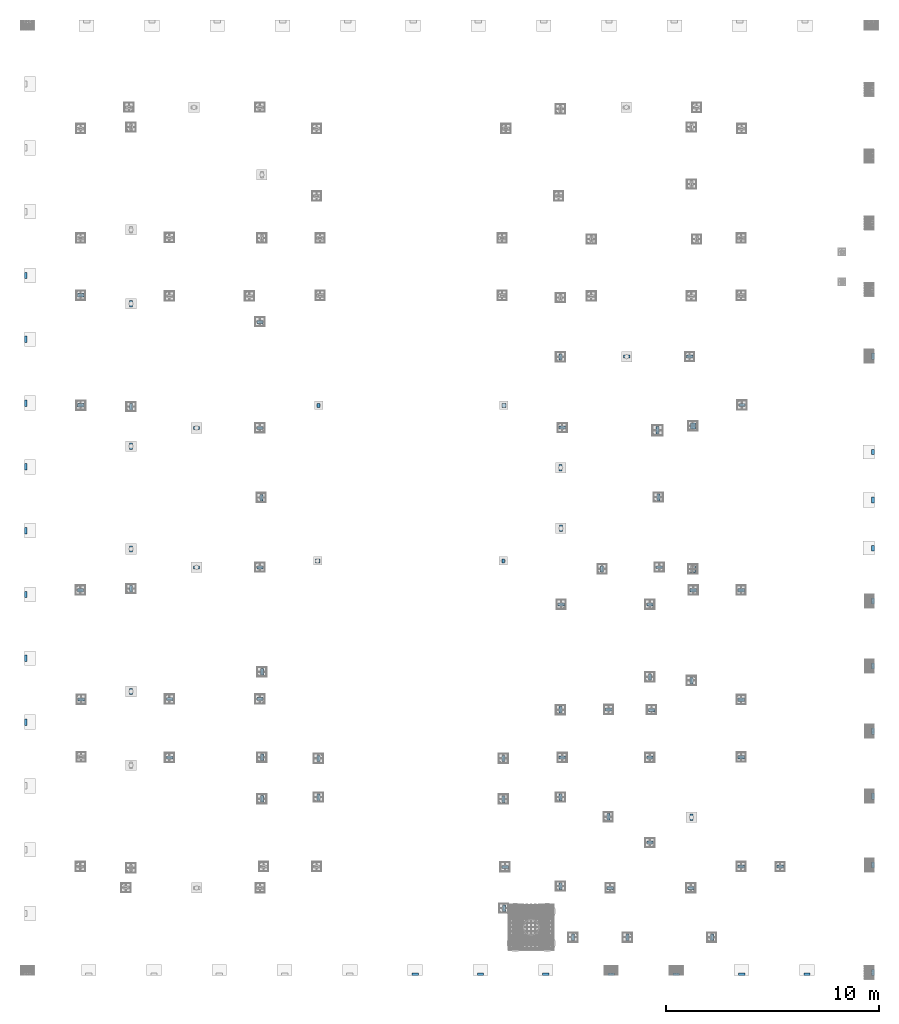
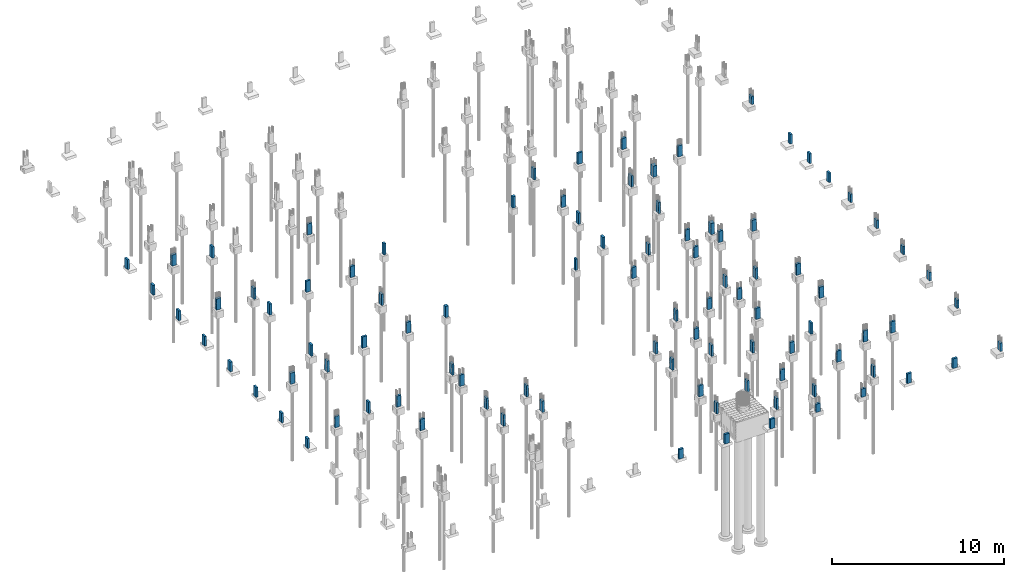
# One storey, part 3 of 119: 95 columns.
"""IFC4 building model written with IfcOpenShell, lengths in centimetres."""

from ifc_helpers import new_model, si_unit, derived_unit, frame, origin_with_axes, origin_2d_with_axis, place, context, project, spatial, rectangle, extrude, material, element, save


model = new_model("IFC4")

# Units and contexts
model_context = context("Model", 3, precision=1e-05, world=origin_with_axes(), identifier="Body")
ifc_project = project(units=[si_unit("LENGTHUNIT", "METRE", prefix="CENTI"), si_unit("VOLUMEUNIT", "CUBIC_METRE"), si_unit("AREAUNIT", "SQUARE_METRE"), si_unit("POWERUNIT", "WATT"), si_unit("LUMINOUSFLUXUNIT", "LUMEN"), si_unit("ELECTRICCURRENTUNIT", "AMPERE"), si_unit("PRESSUREUNIT", "PASCAL", prefix="KILO"), si_unit("MASSUNIT", "GRAM", prefix="KILO"), si_unit("PLANEANGLEUNIT", "RADIAN"), derived_unit("VOLUMETRICFLOWRATEUNIT", [(si_unit("LENGTHUNIT", "METRE"), 3), (si_unit("TIMEUNIT", "SECOND"), -1)])], contexts=[model_context])

# Site, building, storey
site_placement = place(None, frame((-4000.0, 0.0, 0.0), z_axis=(0.0, 0.0, 1.0), x_axis=(1.0, 0.0, 0.0)))
site = spatial("IfcSite", under=ifc_project, at=site_placement, Name="PADRÃO")
building_placement = place(site_placement, frame((0.0, 0.0, -14.0)))
building = spatial("IfcBuilding", under=site, at=building_placement, Name="CRECHE PRÉ-ESCOLA TIPO 2")
storey_placement = place(building_placement, origin_with_axes())
storey = spatial("IfcBuildingStorey", under=building, at=storey_placement, Name="FUNDAÇÃO", CompositionType="ELEMENT", Elevation=-14.0)

# Columns
ifc_material = material(Name="Concreto")
column_1_placement = place(storey_placement, frame((3993.0, 1764.11, 0.0), z_axis=(0.0, 0.0, 1.0), x_axis=(1.0, 0.0, 0.0)))
element("IfcColumn", 1, at=column_1_placement, inside=storey, material=ifc_material, Name="P100", context=model_context, shape_type="SolidModel", body=[
    extrude(rectangle(XDim=14.0, YDim=30.0, at=origin_2d_with_axis()), frame((0.0, 0.0, -59.0), z_axis=(0.0, 0.0, 1.0), x_axis=(-1.0, 0.0, 0.0)), (0.0, 0.0, 1.0), 59.0),
])
column_2_placement = place(storey_placement, frame((8.5, 1494.5, 0.0), z_axis=(0.0, 0.0, 1.0), x_axis=(1.0, 0.0, 0.0)))
element("IfcColumn", 2, at=column_2_placement, inside=storey, material=ifc_material, Name="P101", context=model_context, shape_type="SolidModel", body=[
    extrude(rectangle(XDim=14.0, YDim=30.0, at=origin_2d_with_axis()), frame((0.0, 0.0, -69.0), z_axis=(0.0, 0.0, 1.0), x_axis=(1.0, 0.0, 0.0)), (0.0, 0.0, 1.0), 69.0),
])
column_3_placement = place(storey_placement, frame((1118.72, 1430.5, 0.0), z_axis=(0.0, 0.0, 1.0), x_axis=(1.0, 0.0, 0.0)))
element("IfcColumn", 3, at=column_3_placement, inside=storey, material=ifc_material, Name="P102", context=model_context, shape_type="SolidModel", body=[
    extrude(rectangle(XDim=14.0, YDim=30.0, at=origin_2d_with_axis()), frame((0.0, 0.0, -80.0), z_axis=(0.0, 0.0, 1.0), x_axis=(1.0, 0.0, 0.0)), (0.0, 0.0, 1.0), 80.0),
])
column_4_placement = place(storey_placement, frame((3993.0, 1458.11, 0.0), z_axis=(0.0, 0.0, 1.0), x_axis=(1.0, 0.0, 0.0)))
element("IfcColumn", 4, at=column_4_placement, inside=storey, material=ifc_material, Name="P103", context=model_context, shape_type="SolidModel", body=[
    extrude(rectangle(XDim=14.0, YDim=30.0, at=origin_2d_with_axis()), frame((0.0, 0.0, -59.0), z_axis=(0.0, 0.0, 1.0), x_axis=(-1.0, 0.0, 0.0)), (0.0, 0.0, 1.0), 59.0),
])
column_5_placement = place(storey_placement, frame((2943.24, 1406.51, 0.0), z_axis=(0.0, 0.0, 1.0), x_axis=(1.0, 0.0, 0.0)))
element("IfcColumn", 5, at=column_5_placement, inside=storey, material=ifc_material, Name="P104", context=model_context, shape_type="SolidModel", body=[
    extrude(rectangle(XDim=14.0, YDim=30.0, at=origin_2d_with_axis()), frame((0.0, 0.0, -80.0), z_axis=(0.0, 0.0, 1.0), x_axis=(1.0, 0.0, 0.0)), (0.0, 0.0, 1.0), 80.0),
])
column_6_placement = place(storey_placement, frame((3138.5, 1389.52, 0.0), z_axis=(0.0, 0.0, 1.0), x_axis=(1.0, 0.0, 0.0)))
element("IfcColumn", 6, at=column_6_placement, inside=storey, material=ifc_material, Name="P105", context=model_context, shape_type="SolidModel", body=[
    extrude(rectangle(XDim=14.0, YDim=30.0, at=origin_2d_with_axis()), frame((0.0, 0.0, -80.0), z_axis=(0.0, 0.0, 1.0), x_axis=(-1.0, 0.0, 0.0)), (0.0, 0.0, 1.0), 80.0),
])
column_7_placement = place(storey_placement, frame((269.5, 1301.5, 0.0), z_axis=(0.0, 0.0, 1.0), x_axis=(1.0, 0.0, 0.0)))
element("IfcColumn", 7, at=column_7_placement, inside=storey, material=ifc_material, Name="P106", context=model_context, shape_type="SolidModel", body=[
    extrude(rectangle(XDim=14.0, YDim=30.0, at=origin_2d_with_axis()), frame((0.0, 0.0, -80.0), z_axis=(0.0, 0.0, 1.0), x_axis=(0.0, -1.0, 0.0)), (0.0, 0.0, 1.0), 80.0),
])
column_8_placement = place(storey_placement, frame((503.69, 1338.51, 0.0), z_axis=(0.0, 0.0, 1.0), x_axis=(1.0, 0.0, 0.0)))
element("IfcColumn", 8, at=column_8_placement, inside=storey, material=ifc_material, Name="P107", context=model_context, shape_type="SolidModel", body=[
    extrude(rectangle(XDim=14.0, YDim=30.0, at=origin_2d_with_axis()), frame((0.0, 0.0, -80.0), z_axis=(0.0, 0.0, 1.0), x_axis=(1.0, 0.0, 0.0)), (0.0, 0.0, 1.0), 80.0),
])
column_9_placement = place(storey_placement, frame((685.0, 1302.5, 0.0), z_axis=(0.0, 0.0, 1.0), x_axis=(1.0, 0.0, 0.0)))
element("IfcColumn", 9, at=column_9_placement, inside=storey, material=ifc_material, Name="P108", context=model_context, shape_type="SolidModel", body=[
    extrude(rectangle(XDim=14.0, YDim=30.0, at=origin_2d_with_axis()), frame((0.0, 0.0, -80.0), z_axis=(0.0, 0.0, 1.0), x_axis=(0.0, -1.0, 0.0)), (0.0, 0.0, 1.0), 80.0),
])
column_10_placement = place(storey_placement, frame((1109.72, 1302.5, 0.0), z_axis=(0.0, 0.0, 1.0), x_axis=(1.0, 0.0, 0.0)))
element("IfcColumn", 10, at=column_10_placement, inside=storey, material=ifc_material, Name="P109", context=model_context, shape_type="SolidModel", body=[
    extrude(rectangle(XDim=14.0, YDim=30.0, at=origin_2d_with_axis()), frame((0.0, 0.0, -80.0), z_axis=(0.0, 0.0, 1.0), x_axis=(0.0, 1.0, 0.0)), (0.0, 0.0, 1.0), 80.0),
])
column_11_placement = place(storey_placement, frame((2523.5, 1252.08, 0.0), z_axis=(0.0, 0.0, 1.0), x_axis=(1.0, 0.0, 0.0)))
element("IfcColumn", 11, at=column_11_placement, inside=storey, material=ifc_material, Name="P110", context=model_context, shape_type="SolidModel", body=[
    extrude(rectangle(XDim=14.0, YDim=30.0, at=origin_2d_with_axis()), frame((0.0, 0.0, -80.0), z_axis=(0.0, 0.0, 1.0), x_axis=(1.0, 0.0, 0.0)), (0.0, 0.0, 1.0), 80.0),
])
for number, where, z_axis, x_axis, name in (
    (12, (2749.74, 1253.51, 0.0), (0.0, 0.0, 1.0), (1.0, 0.0, 0.0), "P111"),
    (13, (2951.24, 1252.52, 0.0), (0.0, 0.0, 1.0), (1.0, 0.0, 0.0), "P112"),
):
    element("IfcColumn", number, at=place(storey_placement, frame(where, z_axis=z_axis, x_axis=x_axis)), inside=storey, material=ifc_material, Name=name, context=model_context, shape_type="SolidModel", body=[
        extrude(rectangle(XDim=14.0, YDim=30.0, at=origin_2d_with_axis()), frame((0.0, 0.0, -80.0), z_axis=(0.0, 0.0, 1.0), x_axis=(0.0, 1.0, 0.0)), (0.0, 0.0, 1.0), 80.0),
    ])
column_12_placement = place(storey_placement, frame((3372.5, 1300.09, 0.0), z_axis=(0.0, 0.0, 1.0), x_axis=(1.0, 0.0, 0.0)))
element("IfcColumn", 14, at=column_12_placement, inside=storey, material=ifc_material, Name="P113", context=model_context, shape_type="SolidModel", body=[
    extrude(rectangle(XDim=17.0, YDim=30.0, at=origin_2d_with_axis()), frame((0.0, 0.0, -80.0), z_axis=(0.0, 0.0, 1.0), x_axis=(0.0, -1.0, 0.0)), (0.0, 0.0, 1.0), 80.0),
])
column_13_placement = place(storey_placement, frame((8.5, 1194.5, 0.0), z_axis=(0.0, 0.0, 1.0), x_axis=(1.0, 0.0, 0.0)))
element("IfcColumn", 15, at=column_13_placement, inside=storey, material=ifc_material, Name="P114", context=model_context, shape_type="SolidModel", body=[
    extrude(rectangle(XDim=14.0, YDim=30.0, at=origin_2d_with_axis()), frame((0.0, 0.0, -69.0), z_axis=(0.0, 0.0, 1.0), x_axis=(1.0, 0.0, 0.0)), (0.0, 0.0, 1.0), 69.0),
])
column_14_placement = place(storey_placement, frame((3993.0, 1152.11, 0.0), z_axis=(0.0, 0.0, 1.0), x_axis=(1.0, 0.0, 0.0)))
element("IfcColumn", 16, at=column_14_placement, inside=storey, material=ifc_material, Name="P115", context=model_context, shape_type="SolidModel", body=[
    extrude(rectangle(XDim=14.0, YDim=30.0, at=origin_2d_with_axis()), frame((0.0, 0.0, -59.0), z_axis=(0.0, 0.0, 1.0), x_axis=(-1.0, 0.0, 0.0)), (0.0, 0.0, 1.0), 59.0),
])
column_15_placement = place(storey_placement, frame((685.0, 1027.51, 0.0), z_axis=(0.0, 0.0, 1.0), x_axis=(1.0, 0.0, 0.0)))
element("IfcColumn", 17, at=column_15_placement, inside=storey, material=ifc_material, Name="P118", context=model_context, shape_type="SolidModel", body=[
    extrude(rectangle(XDim=14.0, YDim=30.0, at=origin_2d_with_axis()), frame((0.0, 0.0, -80.0), z_axis=(0.0, 0.0, 1.0), x_axis=(0.0, -1.0, 0.0)), (0.0, 0.0, 1.0), 80.0),
])
column_16_placement = place(storey_placement, frame((1118.72, 1028.5, 0.0), z_axis=(0.0, 0.0, 1.0), x_axis=(1.0, 0.0, 0.0)))
element("IfcColumn", 18, at=column_16_placement, inside=storey, material=ifc_material, Name="P119", context=model_context, shape_type="SolidModel", body=[
    extrude(rectangle(XDim=14.0, YDim=30.0, at=origin_2d_with_axis()), frame((0.0, 0.0, -80.0), z_axis=(0.0, 0.0, 1.0), x_axis=(1.0, 0.0, 0.0)), (0.0, 0.0, 1.0), 80.0),
])
column_17_placement = place(storey_placement, frame((1384.84, 1023.51, 0.0), z_axis=(0.0, 0.0, 1.0), x_axis=(1.0, 0.0, 0.0)))
element("IfcColumn", 19, at=column_17_placement, inside=storey, material=ifc_material, Name="P120", context=model_context, shape_type="SolidModel", body=[
    extrude(rectangle(XDim=14.0, YDim=30.0, at=origin_2d_with_axis()), frame((0.0, 0.0, -80.0), z_axis=(0.0, 0.0, 1.0), x_axis=(-1.0, 0.0, 0.0)), (0.0, 0.0, 1.0), 80.0),
])
column_18_placement = place(storey_placement, frame((2254.49, 1023.51, 0.0), z_axis=(0.0, 0.0, 1.0), x_axis=(1.0, 0.0, 0.0)))
element("IfcColumn", 20, at=column_18_placement, inside=storey, material=ifc_material, Name="P121", context=model_context, shape_type="SolidModel", body=[
    extrude(rectangle(XDim=14.0, YDim=30.0, at=origin_2d_with_axis()), frame((0.0, 0.0, -80.0), z_axis=(0.0, 0.0, 1.0), x_axis=(1.0, 0.0, 0.0)), (0.0, 0.0, 1.0), 80.0),
])
for number, where, z_axis, x_axis, name in (
    (21, (2531.5, 1027.52, 0.0), (0.0, 0.0, 1.0), (1.0, 0.0, 0.0), "P122"),
    (22, (2943.24, 1027.52, 0.0), (0.0, 0.0, 1.0), (1.0, 0.0, 0.0), "P123"),
):
    element("IfcColumn", number, at=place(storey_placement, frame(where, z_axis=z_axis, x_axis=x_axis)), inside=storey, material=ifc_material, Name=name, context=model_context, shape_type="SolidModel", body=[
        extrude(rectangle(XDim=14.0, YDim=30.0, at=origin_2d_with_axis()), frame((0.0, 0.0, -80.0), z_axis=(0.0, 0.0, 1.0), x_axis=(0.0, 1.0, 0.0)), (0.0, 0.0, 1.0), 80.0),
    ])
column_19_placement = place(storey_placement, frame((3372.5, 1030.08, 0.0), z_axis=(0.0, 0.0, 1.0), x_axis=(1.0, 0.0, 0.0)))
element("IfcColumn", 23, at=column_19_placement, inside=storey, material=ifc_material, Name="P124", context=model_context, shape_type="SolidModel", body=[
    extrude(rectangle(XDim=17.0, YDim=30.0, at=origin_2d_with_axis()), frame((0.0, 0.0, -80.0), z_axis=(0.0, 0.0, 1.0), x_axis=(0.0, -1.0, 0.0)), (0.0, 0.0, 1.0), 80.0),
])
for number, where, z_axis, x_axis, name in (
    (24, (1118.72, 833.5, 0.0), (0.0, 0.0, 1.0), (1.0, 0.0, 0.0), "P126"),
    (25, (1384.84, 841.1, 0.0), (0.0, 0.0, 1.0), (1.0, 0.0, 0.0), "P127"),
    (26, (2254.49, 832.52, 0.0), (0.0, 0.0, 1.0), (1.0, 0.0, 0.0), "P128"),
    (27, (2523.5, 841.52, 0.0), (0.0, 0.0, 1.0), (1.0, 0.0, 0.0), "P129"),
):
    element("IfcColumn", number, at=place(storey_placement, frame(where, z_axis=z_axis, x_axis=x_axis)), inside=storey, material=ifc_material, Name=name, context=model_context, shape_type="SolidModel", body=[
        extrude(rectangle(XDim=14.0, YDim=30.0, at=origin_2d_with_axis()), frame((0.0, 0.0, -80.0), z_axis=(0.0, 0.0, 1.0), x_axis=(1.0, 0.0, 0.0)), (0.0, 0.0, 1.0), 80.0),
    ])
column_20_placement = place(storey_placement, frame((3993.0, 846.11, 0.0), z_axis=(0.0, 0.0, 1.0), x_axis=(1.0, 0.0, 0.0)))
element("IfcColumn", 28, at=column_20_placement, inside=storey, material=ifc_material, Name="P130", context=model_context, shape_type="SolidModel", body=[
    extrude(rectangle(XDim=14.0, YDim=30.0, at=origin_2d_with_axis()), frame((0.0, 0.0, -59.0), z_axis=(0.0, 0.0, 1.0), x_axis=(-1.0, 0.0, 0.0)), (0.0, 0.0, 1.0), 59.0),
])
for number, where, z_axis, x_axis, name in (
    (29, (2747.52, 749.08, 0.0), (0.0, 0.0, 1.0), (1.0, 0.0, 0.0), "P131"),
    (30, (3138.5, 746.58, 0.0), (0.0, 0.0, 1.0), (1.0, 0.0, 0.0), "P132"),
):
    element("IfcColumn", number, at=place(storey_placement, frame(where, z_axis=z_axis, x_axis=x_axis)), inside=storey, material=ifc_material, Name=name, context=model_context, shape_type="SolidModel", body=[
        extrude(rectangle(XDim=14.0, YDim=30.0, at=origin_2d_with_axis()), frame((0.0, 0.0, -80.0), z_axis=(0.0, 0.0, 1.0), x_axis=(1.0, 0.0, 0.0)), (0.0, 0.0, 1.0), 80.0),
    ])
for number, where, z_axis, x_axis, name in (
    (31, (2943.45, 627.58, 0.0), (0.0, 0.0, 1.0), (1.0, 0.0, 0.0), "P134"),
    (32, (2262.48, 513.52, 0.0), (0.0, 0.0, 1.0), (1.0, 0.0, 0.0), "P139"),
    (33, (3372.5, 515.01, 0.0), (0.0, 0.0, 1.0), (1.0, 0.0, 0.0), "P140"),
):
    element("IfcColumn", number, at=place(storey_placement, frame(where, z_axis=z_axis, x_axis=x_axis)), inside=storey, material=ifc_material, Name=name, context=model_context, shape_type="SolidModel", body=[
        extrude(rectangle(XDim=14.0, YDim=30.0, at=origin_2d_with_axis()), frame((0.0, 0.0, -80.0), z_axis=(0.0, 0.0, 1.0), x_axis=(0.0, 1.0, 0.0)), (0.0, 0.0, 1.0), 80.0),
    ])
column_21_placement = place(storey_placement, frame((3556.0, 514.52, 0.0), z_axis=(0.0, 0.0, 1.0), x_axis=(1.0, 0.0, 0.0)))
element("IfcColumn", 34, at=column_21_placement, inside=storey, material=ifc_material, Name="P141", context=model_context, shape_type="SolidModel", body=[
    extrude(rectangle(XDim=14.0, YDim=30.0, at=origin_2d_with_axis()), frame((0.0, 0.0, -80.0), z_axis=(0.0, 0.0, 1.0), x_axis=(0.0, -1.0, 0.0)), (0.0, 0.0, 1.0), 80.0),
])
column_22_placement = place(storey_placement, frame((3993.0, 522.51, 0.0), z_axis=(0.0, 0.0, 1.0), x_axis=(1.0, 0.0, 0.0)))
element("IfcColumn", 35, at=column_22_placement, inside=storey, material=ifc_material, Name="P142", context=model_context, shape_type="SolidModel", body=[
    extrude(rectangle(XDim=14.0, YDim=30.0, at=origin_2d_with_axis()), frame((0.0, 0.0, -59.0), z_axis=(0.0, 0.0, 1.0), x_axis=(-1.0, 0.0, 0.0)), (0.0, 0.0, 1.0), 59.0),
])
column_23_placement = place(storey_placement, frame((2523.5, 423.02, 0.0), z_axis=(0.0, 0.0, 1.0), x_axis=(1.0, 0.0, 0.0)))
element("IfcColumn", 36, at=column_23_placement, inside=storey, material=ifc_material, Name="P146", context=model_context, shape_type="SolidModel", body=[
    extrude(rectangle(XDim=14.0, YDim=30.0, at=origin_2d_with_axis()), frame((0.0, 0.0, -80.0), z_axis=(0.0, 0.0, 1.0), x_axis=(1.0, 0.0, 0.0)), (0.0, 0.0, 1.0), 80.0),
])
for number, where, z_axis, x_axis, name in (
    (37, (2756.46, 415.01, 0.0), (0.0, 0.0, 1.0), (1.0, 0.0, 0.0), "P147"),
    (38, (3136.0, 415.01, 0.0), (0.0, 0.0, 1.0), (1.0, 0.0, 0.0), "P148"),
):
    element("IfcColumn", number, at=place(storey_placement, frame(where, z_axis=z_axis, x_axis=x_axis)), inside=storey, material=ifc_material, Name=name, context=model_context, shape_type="SolidModel", body=[
        extrude(rectangle(XDim=14.0, YDim=30.0, at=origin_2d_with_axis()), frame((0.0, 0.0, -80.0), z_axis=(0.0, 0.0, 1.0), x_axis=(0.0, 1.0, 0.0)), (0.0, 0.0, 1.0), 80.0),
    ])
column_24_placement = place(storey_placement, frame((2255.98, 319.02, 0.0), z_axis=(0.0, 0.0, 1.0), x_axis=(1.0, 0.0, 0.0)))
element("IfcColumn", 39, at=column_24_placement, inside=storey, material=ifc_material, Name="P150", context=model_context, shape_type="SolidModel", body=[
    extrude(rectangle(XDim=14.0, YDim=30.0, at=origin_2d_with_axis()), frame((0.0, 0.0, -80.0), z_axis=(0.0, 0.0, 1.0), x_axis=(1.0, 0.0, 0.0)), (0.0, 0.0, 1.0), 80.0),
])
for number, where, z_axis, x_axis, name in (
    (40, (2581.46, 182.5, 0.0), (0.0, 0.0, 1.0), (1.0, 0.0, 0.0), "P152"),
    (41, (2837.49, 182.5, 0.0), (0.0, 0.0, 1.0), (1.0, 0.0, 0.0), "P153"),
):
    element("IfcColumn", number, at=place(storey_placement, frame(where, z_axis=z_axis, x_axis=x_axis)), inside=storey, material=ifc_material, Name=name, context=model_context, shape_type="SolidModel", body=[
        extrude(rectangle(XDim=14.0, YDim=30.0, at=origin_2d_with_axis()), frame((0.0, 0.0, -80.0), z_axis=(0.0, 0.0, 1.0), x_axis=(-1.0, 0.0, 0.0)), (0.0, 0.0, 1.0), 80.0),
    ])
column_25_placement = place(storey_placement, frame((3233.99, 182.5, 0.0), z_axis=(0.0, 0.0, 1.0), x_axis=(1.0, 0.0, 0.0)))
element("IfcColumn", 42, at=column_25_placement, inside=storey, material=ifc_material, Name="P154", context=model_context, shape_type="SolidModel", body=[
    extrude(rectangle(XDim=14.0, YDim=30.0, at=origin_2d_with_axis()), frame((0.0, 0.0, -80.0), z_axis=(0.0, 0.0, 1.0), x_axis=(1.0, 0.0, 0.0)), (0.0, 0.0, 1.0), 80.0),
])
for number, where, z_axis, x_axis, name in (
    (43, (1839.5, 9.0, 0.0), (0.0, 0.0, 1.0), (1.0, 0.0, 0.0), "P161"),
    (44, (2146.5, 9.0, 0.0), (0.0, 0.0, 1.0), (1.0, 0.0, 0.0), "P162"),
    (45, (2453.5, 9.0, 0.0), (0.0, 0.0, 1.0), (1.0, 0.0, 0.0), "P163"),
):
    element("IfcColumn", number, at=place(storey_placement, frame(where, z_axis=z_axis, x_axis=x_axis)), inside=storey, material=ifc_material, Name=name, context=model_context, shape_type="SolidModel", body=[
        extrude(rectangle(XDim=14.0, YDim=30.0, at=origin_2d_with_axis()), frame((0.0, 0.0, -69.0), z_axis=(0.0, 0.0, 1.0), x_axis=(0.0, 1.0, 0.0)), (0.0, 0.0, 1.0), 69.0),
    ])
for number, where, z_axis, x_axis, name in (
    (46, (2760.5, 9.0, 0.0), (0.0, 0.0, 1.0), (1.0, 0.0, 0.0), "P164"),
    (47, (3067.5, 9.0, 0.0), (0.0, 0.0, 1.0), (1.0, 0.0, 0.0), "P165"),
):
    element("IfcColumn", number, at=place(storey_placement, frame(where, z_axis=z_axis, x_axis=x_axis)), inside=storey, material=ifc_material, Name=name, context=model_context, shape_type="SolidModel", body=[
        extrude(rectangle(XDim=14.0, YDim=30.0, at=origin_2d_with_axis()), frame((0.0, 0.0, -59.0), z_axis=(0.0, 0.0, 1.0), x_axis=(0.0, 1.0, 0.0)), (0.0, 0.0, 1.0), 59.0),
    ])
for number, where, z_axis, x_axis, name in (
    (48, (3374.5, 9.0, 0.0), (0.0, 0.0, 1.0), (1.0, 0.0, 0.0), "P166"),
    (49, (3681.5, 9.0, 0.0), (0.0, 0.0, 1.0), (1.0, 0.0, 0.0), "P167"),
):
    element("IfcColumn", number, at=place(storey_placement, frame(where, z_axis=z_axis, x_axis=x_axis)), inside=storey, material=ifc_material, Name=name, context=model_context, shape_type="SolidModel", body=[
        extrude(rectangle(XDim=14.0, YDim=30.0, at=origin_2d_with_axis()), frame((0.0, 0.0, -69.0), z_axis=(0.0, 0.0, 1.0), x_axis=(0.0, 1.0, 0.0)), (0.0, 0.0, 1.0), 69.0),
    ])
column_26_placement = place(storey_placement, frame((3992.0, 17.0, 0.0), z_axis=(0.0, 0.0, 1.0), x_axis=(1.0, 0.0, 0.0)))
element("IfcColumn", 50, at=column_26_placement, inside=storey, material=ifc_material, Name="P168", context=model_context, shape_type="SolidModel", body=[
    extrude(rectangle(XDim=14.0, YDim=30.0, at=origin_2d_with_axis()), frame((0.0, 0.0, -59.0), z_axis=(0.0, 0.0, 1.0), x_axis=(-1.0, 0.0, 0.0)), (0.0, 0.0, 1.0), 59.0),
])
column_27_placement = place(storey_placement, frame((8.5, 3294.5, 0.0), z_axis=(0.0, 0.0, 1.0), x_axis=(1.0, 0.0, 0.0)))
element("IfcColumn", 51, at=column_27_placement, inside=storey, material=ifc_material, Name="P46", context=model_context, shape_type="SolidModel", body=[
    extrude(rectangle(XDim=14.0, YDim=30.0, at=origin_2d_with_axis()), frame((0.0, 0.0, -69.0), z_axis=(0.0, 0.0, 1.0), x_axis=(1.0, 0.0, 0.0)), (0.0, 0.0, 1.0), 69.0),
])
column_28_placement = place(storey_placement, frame((267.0, 3200.5, 0.0), z_axis=(0.0, 0.0, 1.0), x_axis=(1.0, 0.0, 0.0)))
element("IfcColumn", 52, at=column_28_placement, inside=storey, material=ifc_material, Name="P47", context=model_context, shape_type="SolidModel", body=[
    extrude(rectangle(XDim=17.0, YDim=30.0, at=origin_2d_with_axis()), frame((0.0, 0.0, -80.0), z_axis=(0.0, 0.0, 1.0), x_axis=(0.0, -1.0, 0.0)), (0.0, 0.0, 1.0), 80.0),
])
column_29_placement = place(storey_placement, frame((503.69, 3161.5, 0.0), z_axis=(0.0, 0.0, 1.0), x_axis=(1.0, 0.0, 0.0)))
element("IfcColumn", 53, at=column_29_placement, inside=storey, material=ifc_material, Name="P48", context=model_context, shape_type="SolidModel", body=[
    extrude(rectangle(XDim=14.0, YDim=30.0, at=origin_2d_with_axis()), frame((0.0, 0.0, -80.0), z_axis=(0.0, 0.0, 1.0), x_axis=(1.0, 0.0, 0.0)), (0.0, 0.0, 1.0), 80.0),
])
column_30_placement = place(storey_placement, frame((1109.72, 3076.5, 0.0), z_axis=(0.0, 0.0, 1.0), x_axis=(1.0, 0.0, 0.0)))
element("IfcColumn", 54, at=column_30_placement, inside=storey, material=ifc_material, Name="P58", context=model_context, shape_type="SolidModel", body=[
    extrude(rectangle(XDim=14.0, YDim=30.0, at=origin_2d_with_axis()), frame((0.0, 0.0, -80.0), z_axis=(0.0, 0.0, 1.0), x_axis=(0.0, 1.0, 0.0)), (0.0, 0.0, 1.0), 80.0),
])
column_31_placement = place(storey_placement, frame((8.5, 2994.5, 0.0), z_axis=(0.0, 0.0, 1.0), x_axis=(1.0, 0.0, 0.0)))
element("IfcColumn", 55, at=column_31_placement, inside=storey, material=ifc_material, Name="P59", context=model_context, shape_type="SolidModel", body=[
    extrude(rectangle(XDim=14.0, YDim=30.0, at=origin_2d_with_axis()), frame((0.0, 0.0, -69.0), z_axis=(0.0, 0.0, 1.0), x_axis=(1.0, 0.0, 0.0)), (0.0, 0.0, 1.0), 69.0),
])
column_32_placement = place(storey_placement, frame((2523.5, 2911.02, 0.0), z_axis=(0.0, 0.0, 1.0), x_axis=(1.0, 0.0, 0.0)))
element("IfcColumn", 56, at=column_32_placement, inside=storey, material=ifc_material, Name="P60", context=model_context, shape_type="SolidModel", body=[
    extrude(rectangle(XDim=14.0, YDim=30.0, at=origin_2d_with_axis()), frame((0.0, 0.0, -80.0), z_axis=(0.0, 0.0, 1.0), x_axis=(1.0, 0.0, 0.0)), (0.0, 0.0, 1.0), 80.0),
])
for number, where, z_axis, x_axis, name in (
    (57, (2834.0, 2912.52, 0.0), (0.0, 0.0, 1.0), (1.0, 0.0, 0.0), "P61"),
    (58, (3130.5, 2912.52, 0.0), (0.0, 0.0, 1.0), (1.0, 0.0, 0.0), "P62"),
):
    element("IfcColumn", number, at=place(storey_placement, frame(where, z_axis=z_axis, x_axis=x_axis)), inside=storey, material=ifc_material, Name=name, context=model_context, shape_type="SolidModel", body=[
        extrude(rectangle(XDim=14.0, YDim=30.0, at=origin_2d_with_axis()), frame((0.0, 0.0, -80.0), z_axis=(0.0, 0.0, 1.0), x_axis=(0.0, -1.0, 0.0)), (0.0, 0.0, 1.0), 80.0),
    ])
column_33_placement = place(storey_placement, frame((3992.0, 2914.5, 0.0), z_axis=(0.0, 0.0, 1.0), x_axis=(1.0, 0.0, 0.0)))
element("IfcColumn", 59, at=column_33_placement, inside=storey, material=ifc_material, Name="P63", context=model_context, shape_type="SolidModel", body=[
    extrude(rectangle(XDim=14.0, YDim=30.0, at=origin_2d_with_axis()), frame((0.0, 0.0, -59.0), z_axis=(0.0, 0.0, 1.0), x_axis=(-1.0, 0.0, 0.0)), (0.0, 0.0, 1.0), 59.0),
])
column_34_placement = place(storey_placement, frame((8.5, 2694.5, 0.0), z_axis=(0.0, 0.0, 1.0), x_axis=(1.0, 0.0, 0.0)))
element("IfcColumn", 60, at=column_34_placement, inside=storey, material=ifc_material, Name="P64", context=model_context, shape_type="SolidModel", body=[
    extrude(rectangle(XDim=14.0, YDim=30.0, at=origin_2d_with_axis()), frame((0.0, 0.0, -69.0), z_axis=(0.0, 0.0, 1.0), x_axis=(1.0, 0.0, 0.0)), (0.0, 0.0, 1.0), 69.0),
])
column_35_placement = place(storey_placement, frame((268.0, 2683.51, 0.0), z_axis=(0.0, 0.0, 1.0), x_axis=(1.0, 0.0, 0.0)))
element("IfcColumn", 61, at=column_35_placement, inside=storey, material=ifc_material, Name="P65", context=model_context, shape_type="SolidModel", body=[
    extrude(rectangle(XDim=17.0, YDim=30.0, at=origin_2d_with_axis()), frame((0.0, 0.0, -80.0), z_axis=(0.0, 0.0, 1.0), x_axis=(0.0, -1.0, 0.0)), (0.0, 0.0, 1.0), 80.0),
])
column_36_placement = place(storey_placement, frame((503.69, 2677.01, 0.0), z_axis=(0.0, 0.0, 1.0), x_axis=(1.0, 0.0, 0.0)))
element("IfcColumn", 62, at=column_36_placement, inside=storey, material=ifc_material, Name="P66", context=model_context, shape_type="SolidModel", body=[
    extrude(rectangle(XDim=14.0, YDim=30.0, at=origin_2d_with_axis()), frame((0.0, 0.0, -80.0), z_axis=(0.0, 0.0, 1.0), x_axis=(1.0, 0.0, 0.0)), (0.0, 0.0, 1.0), 80.0),
])
column_37_placement = place(storey_placement, frame((1385.25, 2683.51, 0.0), z_axis=(0.0, 0.0, 1.0), x_axis=(1.0, 0.0, 0.0)))
element("IfcColumn", 63, at=column_37_placement, inside=storey, material=ifc_material, Name="P67", context=model_context, shape_type="SolidModel", body=[
    extrude(rectangle(XDim=14.0, YDim=20.0, at=origin_2d_with_axis()), frame((0.0, 0.0, -80.0), z_axis=(0.0, 0.0, 1.0), x_axis=(-1.0, 0.0, 0.0)), (0.0, 0.0, 1.0), 80.0),
])
column_38_placement = place(storey_placement, frame((2256.49, 2683.51, 30.0), z_axis=(0.0, 0.0, 1.0), x_axis=(1.0, 0.0, 0.0)))
element("IfcColumn", 64, at=column_38_placement, inside=storey, material=ifc_material, Name="P68", context=model_context, shape_type="SolidModel", body=[
    extrude(rectangle(XDim=20.0, YDim=20.0, at=origin_2d_with_axis()), frame((0.0, 0.0, -80.0), z_axis=(0.0, 0.0, 1.0), x_axis=(-1.0, 0.0, 0.0)), (0.0, 0.0, 1.0), 80.0),
])
for number, where, z_axis, x_axis, name in (
    (65, (3376.0, 2685.02, 0.0), (0.0, 0.0, 1.0), (1.0, 0.0, 0.0), "P69"),
    (66, (811.39, 2577.5, 0.0), (0.0, 0.0, 1.0), (1.0, 0.0, 0.0), "P70"),
):
    element("IfcColumn", number, at=place(storey_placement, frame(where, z_axis=z_axis, x_axis=x_axis)), inside=storey, material=ifc_material, Name=name, context=model_context, shape_type="SolidModel", body=[
        extrude(rectangle(XDim=14.0, YDim=30.0, at=origin_2d_with_axis()), frame((0.0, 0.0, -80.0), z_axis=(0.0, 0.0, 1.0), x_axis=(0.0, -1.0, 0.0)), (0.0, 0.0, 1.0), 80.0),
    ])
column_39_placement = place(storey_placement, frame((1109.72, 2577.5, 0.0), z_axis=(0.0, 0.0, 1.0), x_axis=(1.0, 0.0, 0.0)))
element("IfcColumn", 67, at=column_39_placement, inside=storey, material=ifc_material, Name="P71", context=model_context, shape_type="SolidModel", body=[
    extrude(rectangle(XDim=14.0, YDim=30.0, at=origin_2d_with_axis()), frame((0.0, 0.0, -80.0), z_axis=(0.0, 0.0, 1.0), x_axis=(0.0, 1.0, 0.0)), (0.0, 0.0, 1.0), 80.0),
])
column_40_placement = place(storey_placement, frame((2531.5, 2578.52, 0.0), z_axis=(0.0, 0.0, 1.0), x_axis=(1.0, 0.0, 0.0)))
element("IfcColumn", 68, at=column_40_placement, inside=storey, material=ifc_material, Name="P72", context=model_context, shape_type="SolidModel", body=[
    extrude(rectangle(XDim=14.0, YDim=30.0, at=origin_2d_with_axis()), frame((0.0, 0.0, -80.0), z_axis=(0.0, 0.0, 1.0), x_axis=(0.0, -1.0, 0.0)), (0.0, 0.0, 1.0), 80.0),
])
column_41_placement = place(storey_placement, frame((2979.5, 2566.02, 0.0), z_axis=(0.0, 0.0, 1.0), x_axis=(1.0, 0.0, 0.0)))
element("IfcColumn", 69, at=column_41_placement, inside=storey, material=ifc_material, Name="P73", context=model_context, shape_type="SolidModel", body=[
    extrude(rectangle(XDim=14.0, YDim=35.0, at=origin_2d_with_axis()), frame((0.0, 0.0, -80.0), z_axis=(0.0, 0.0, 1.0), x_axis=(1.0, 0.0, 0.0)), (0.0, 0.0, 1.0), 80.0),
])
column_42_placement = place(storey_placement, frame((3145.02, 2586.52, 0.0), z_axis=(0.0, 0.0, 1.0), x_axis=(1.0, 0.0, 0.0)))
element("IfcColumn", 70, at=column_42_placement, inside=storey, material=ifc_material, Name="P74", context=model_context, shape_type="SolidModel", body=[
    extrude(rectangle(XDim=24.0, YDim=30.0, at=origin_2d_with_axis()), frame((0.0, 0.0, -80.0), z_axis=(0.0, 0.0, 1.0), x_axis=(1.0, 0.0, 0.0)), (0.0, 0.0, 1.0), 80.0),
])
column_43_placement = place(storey_placement, frame((503.69, 2491.5, 0.0), z_axis=(0.0, 0.0, 1.0), x_axis=(1.0, 0.0, 0.0)))
element("IfcColumn", 71, at=column_43_placement, inside=storey, material=ifc_material, Name="P75", context=model_context, shape_type="SolidModel", body=[
    extrude(rectangle(XDim=14.0, YDim=30.0, at=origin_2d_with_axis()), frame((0.0, 0.0, -80.0), z_axis=(0.0, 0.0, 1.0), x_axis=(1.0, 0.0, 0.0)), (0.0, 0.0, 1.0), 80.0),
])
column_44_placement = place(storey_placement, frame((3993.0, 2464.77, 0.0), z_axis=(0.0, 0.0, 1.0), x_axis=(1.0, 0.0, 0.0)))
element("IfcColumn", 72, at=column_44_placement, inside=storey, material=ifc_material, Name="P76", context=model_context, shape_type="SolidModel", body=[
    extrude(rectangle(XDim=14.0, YDim=25.0, at=origin_2d_with_axis()), frame((0.0, 0.0, -69.0), z_axis=(0.0, 0.0, 1.0), x_axis=(-1.0, 0.0, 0.0)), (0.0, 0.0, 1.0), 69.0),
])
column_45_placement = place(storey_placement, frame((8.5, 2394.5, 0.0), z_axis=(0.0, 0.0, 1.0), x_axis=(1.0, 0.0, 0.0)))
element("IfcColumn", 73, at=column_45_placement, inside=storey, material=ifc_material, Name="P77", context=model_context, shape_type="SolidModel", body=[
    extrude(rectangle(XDim=14.0, YDim=30.0, at=origin_2d_with_axis()), frame((0.0, 0.0, -69.0), z_axis=(0.0, 0.0, 1.0), x_axis=(1.0, 0.0, 0.0)), (0.0, 0.0, 1.0), 69.0),
])
for number, where, z_axis, x_axis, name in (
    (74, (2523.5, 2390.27, 0.0), (0.0, 0.0, 1.0), (1.0, 0.0, 0.0), "P78"),
    (75, (1116.0, 2250.0, 0.0), (0.0, 0.0, 1.0), (1.0, 0.0, 0.0), "P79"),
    (76, (2983.0, 2251.77, 0.0), (0.0, 0.0, 1.0), (1.0, 0.0, 0.0), "P80"),
):
    element("IfcColumn", number, at=place(storey_placement, frame(where, z_axis=z_axis, x_axis=x_axis)), inside=storey, material=ifc_material, Name=name, context=model_context, shape_type="SolidModel", body=[
        extrude(rectangle(XDim=14.0, YDim=30.0, at=origin_2d_with_axis()), frame((0.0, 0.0, -80.0), z_axis=(0.0, 0.0, 1.0), x_axis=(1.0, 0.0, 0.0)), (0.0, 0.0, 1.0), 80.0),
    ])
column_46_placement = place(storey_placement, frame((3992.0, 2238.69, 0.0), z_axis=(0.0, 0.0, 1.0), x_axis=(1.0, 0.0, 0.0)))
element("IfcColumn", 77, at=column_46_placement, inside=storey, material=ifc_material, Name="P81", context=model_context, shape_type="SolidModel", body=[
    extrude(rectangle(XDim=14.0, YDim=30.0, at=origin_2d_with_axis()), frame((0.0, 0.0, -69.0), z_axis=(0.0, 0.0, 1.0), x_axis=(-1.0, 0.0, 0.0)), (0.0, 0.0, 1.0), 69.0),
])
column_47_placement = place(storey_placement, frame((8.5, 2094.5, 0.0), z_axis=(0.0, 0.0, 1.0), x_axis=(1.0, 0.0, 0.0)))
element("IfcColumn", 78, at=column_47_placement, inside=storey, material=ifc_material, Name="P82", context=model_context, shape_type="SolidModel", body=[
    extrude(rectangle(XDim=14.0, YDim=30.0, at=origin_2d_with_axis()), frame((0.0, 0.0, -69.0), z_axis=(0.0, 0.0, 1.0), x_axis=(1.0, 0.0, 0.0)), (0.0, 0.0, 1.0), 69.0),
])
for number, where, z_axis, x_axis, name in (
    (79, (2524.49, 2105.52, 0.0), (0.0, 0.0, 1.0), (1.0, 0.0, 0.0), "P83"),
    (80, (503.69, 2008.5, 0.0), (0.0, 0.0, 1.0), (1.0, 0.0, 0.0), "P84"),
):
    element("IfcColumn", number, at=place(storey_placement, frame(where, z_axis=z_axis, x_axis=x_axis)), inside=storey, material=ifc_material, Name=name, context=model_context, shape_type="SolidModel", body=[
        extrude(rectangle(XDim=14.0, YDim=30.0, at=origin_2d_with_axis()), frame((0.0, 0.0, -80.0), z_axis=(0.0, 0.0, 1.0), x_axis=(1.0, 0.0, 0.0)), (0.0, 0.0, 1.0), 80.0),
    ])
column_48_placement = place(storey_placement, frame((3992.0, 2012.61, 0.0), z_axis=(0.0, 0.0, 1.0), x_axis=(1.0, 0.0, 0.0)))
element("IfcColumn", 81, at=column_48_placement, inside=storey, material=ifc_material, Name="P85", context=model_context, shape_type="SolidModel", body=[
    extrude(rectangle(XDim=14.0, YDim=25.0, at=origin_2d_with_axis()), frame((0.0, 0.0, -69.0), z_axis=(0.0, 0.0, 1.0), x_axis=(-1.0, 0.0, 0.0)), (0.0, 0.0, 1.0), 69.0),
])
for number, where, z_axis, x_axis, name in (
    (82, (811.39, 1922.5, 0.0), (0.0, 0.0, 1.0), (1.0, 0.0, 0.0), "P86"),
    (83, (1109.72, 1922.5, 0.0), (0.0, 0.0, 1.0), (1.0, 0.0, 0.0), "P87"),
):
    element("IfcColumn", number, at=place(storey_placement, frame(where, z_axis=z_axis, x_axis=x_axis)), inside=storey, material=ifc_material, Name=name, context=model_context, shape_type="SolidModel", body=[
        extrude(rectangle(XDim=14.0, YDim=30.0, at=origin_2d_with_axis()), frame((0.0, 0.0, -80.0), z_axis=(0.0, 0.0, 1.0), x_axis=(0.0, -1.0, 0.0)), (0.0, 0.0, 1.0), 80.0),
    ])
column_49_placement = place(storey_placement, frame((1380.84, 1952.5, 0.0), z_axis=(0.0, 0.0, 1.0), x_axis=(1.0, 0.0, 0.0)))
element("IfcColumn", 84, at=column_49_placement, inside=storey, material=ifc_material, Name="P88", context=model_context, shape_type="SolidModel", body=[
    extrude(rectangle(XDim=20.0, YDim=20.0, at=origin_2d_with_axis()), frame((0.0, 0.0, -80.0), z_axis=(0.0, 0.0, 1.0), x_axis=(1.0, 0.0, 0.0)), (0.0, 0.0, 1.0), 80.0),
])
column_50_placement = place(storey_placement, frame((2253.49, 1952.5, 30.0), z_axis=(0.0, 0.0, 1.0), x_axis=(1.0, 0.0, 0.0)))
element("IfcColumn", 85, at=column_50_placement, inside=storey, material=ifc_material, Name="P89", context=model_context, shape_type="SolidModel", body=[
    extrude(rectangle(XDim=14.0, YDim=20.0, at=origin_2d_with_axis()), frame((0.0, 0.0, -80.0), z_axis=(0.0, 0.0, 1.0), x_axis=(-1.0, 0.0, 0.0)), (0.0, 0.0, 1.0), 80.0),
])
column_51_placement = place(storey_placement, frame((2718.75, 1914.52, 0.0), z_axis=(0.0, 0.0, 1.0), x_axis=(1.0, 0.0, 0.0)))
element("IfcColumn", 86, at=column_51_placement, inside=storey, material=ifc_material, Name="P90", context=model_context, shape_type="SolidModel", body=[
    extrude(rectangle(XDim=14.0, YDim=30.0, at=origin_2d_with_axis()), frame((0.0, 0.0, -80.0), z_axis=(0.0, 0.0, 1.0), x_axis=(1.0, 0.0, 0.0)), (0.0, 0.0, 1.0), 80.0),
])
column_52_placement = place(storey_placement, frame((2987.5, 1922.52, 0.0), z_axis=(0.0, 0.0, 1.0), x_axis=(1.0, 0.0, 0.0)))
element("IfcColumn", 87, at=column_52_placement, inside=storey, material=ifc_material, Name="P91", context=model_context, shape_type="SolidModel", body=[
    extrude(rectangle(XDim=14.0, YDim=30.0, at=origin_2d_with_axis()), frame((0.0, 0.0, -80.0), z_axis=(0.0, 0.0, 1.0), x_axis=(0.0, 1.0, 0.0)), (0.0, 0.0, 1.0), 80.0),
])
column_53_placement = place(storey_placement, frame((3145.02, 1913.52, 0.0), z_axis=(0.0, 0.0, 1.0), x_axis=(1.0, 0.0, 0.0)))
element("IfcColumn", 88, at=column_53_placement, inside=storey, material=ifc_material, Name="P92", context=model_context, shape_type="SolidModel", body=[
    extrude(rectangle(XDim=24.0, YDim=30.0, at=origin_2d_with_axis()), frame((0.0, 0.0, -80.0), z_axis=(0.0, 0.0, 1.0), x_axis=(1.0, 0.0, 0.0)), (0.0, 0.0, 1.0), 80.0),
])
column_54_placement = place(storey_placement, frame((8.5, 1794.5, 0.0), z_axis=(0.0, 0.0, 1.0), x_axis=(1.0, 0.0, 0.0)))
element("IfcColumn", 89, at=column_54_placement, inside=storey, material=ifc_material, Name="P93", context=model_context, shape_type="SolidModel", body=[
    extrude(rectangle(XDim=14.0, YDim=30.0, at=origin_2d_with_axis()), frame((0.0, 0.0, -69.0), z_axis=(0.0, 0.0, 1.0), x_axis=(1.0, 0.0, 0.0)), (0.0, 0.0, 1.0), 69.0),
])
column_55_placement = place(storey_placement, frame((266.0, 1815.0, 0.0), z_axis=(0.0, 0.0, 1.0), x_axis=(1.0, 0.0, 0.0)))
element("IfcColumn", 90, at=column_55_placement, inside=storey, material=ifc_material, Name="P94", context=model_context, shape_type="SolidModel", body=[
    extrude(rectangle(XDim=17.0, YDim=30.0, at=origin_2d_with_axis()), frame((0.0, 0.0, -80.0), z_axis=(0.0, 0.0, 1.0), x_axis=(0.0, -1.0, 0.0)), (0.0, 0.0, 1.0), 80.0),
])
column_56_placement = place(storey_placement, frame((503.69, 1821.5, 0.0), z_axis=(0.0, 0.0, 1.0), x_axis=(1.0, 0.0, 0.0)))
element("IfcColumn", 91, at=column_56_placement, inside=storey, material=ifc_material, Name="P95", context=model_context, shape_type="SolidModel", body=[
    extrude(rectangle(XDim=14.0, YDim=30.0, at=origin_2d_with_axis()), frame((0.0, 0.0, -80.0), z_axis=(0.0, 0.0, 1.0), x_axis=(1.0, 0.0, 0.0)), (0.0, 0.0, 1.0), 80.0),
])
for number, where, z_axis, x_axis, name in (
    (92, (3147.5, 1815.02, 0.0), (0.0, 0.0, 1.0), (1.0, 0.0, 0.0), "P96"),
    (93, (3372.5, 1815.02, 0.0), (0.0, 0.0, 1.0), (1.0, 0.0, 0.0), "P97"),
):
    element("IfcColumn", number, at=place(storey_placement, frame(where, z_axis=z_axis, x_axis=x_axis)), inside=storey, material=ifc_material, Name=name, context=model_context, shape_type="SolidModel", body=[
        extrude(rectangle(XDim=17.0, YDim=30.0, at=origin_2d_with_axis()), frame((0.0, 0.0, -80.0), z_axis=(0.0, 0.0, 1.0), x_axis=(0.0, 1.0, 0.0)), (0.0, 0.0, 1.0), 80.0),
    ])
for number, where, z_axis, x_axis, name in (
    (94, (2526.0, 1747.84, 0.0), (0.0, 0.0, 1.0), (1.0, 0.0, 0.0), "P98"),
    (95, (2943.24, 1747.84, 0.0), (0.0, 0.0, 1.0), (1.0, 0.0, 0.0), "P99"),
):
    element("IfcColumn", number, at=place(storey_placement, frame(where, z_axis=z_axis, x_axis=x_axis)), inside=storey, material=ifc_material, Name=name, context=model_context, shape_type="SolidModel", body=[
        extrude(rectangle(XDim=14.0, YDim=30.0, at=origin_2d_with_axis()), frame((0.0, 0.0, -80.0), z_axis=(0.0, 0.0, 1.0), x_axis=(0.0, 1.0, 0.0)), (0.0, 0.0, 1.0), 80.0),
    ])

save(model, "model.ifc")
